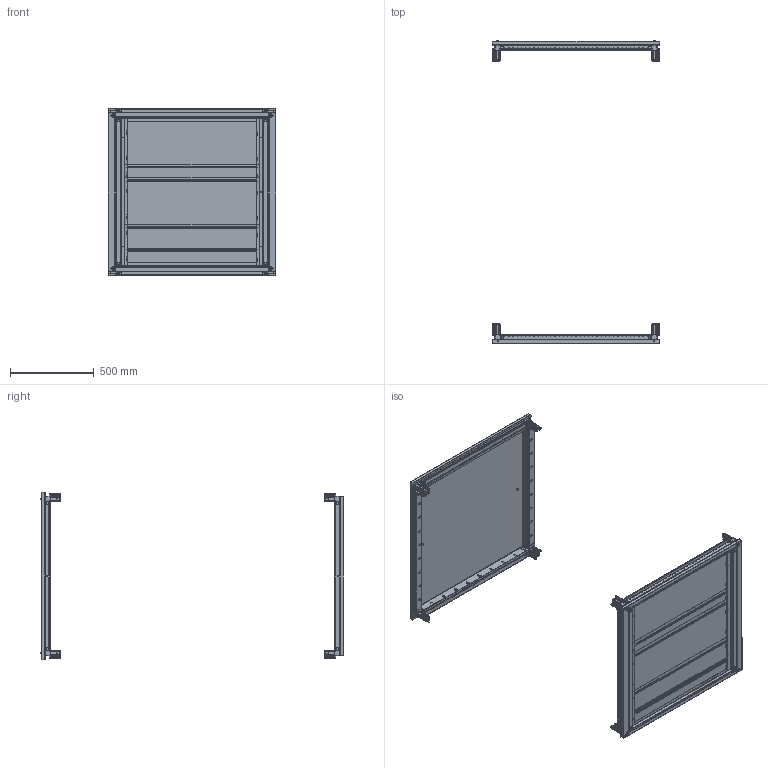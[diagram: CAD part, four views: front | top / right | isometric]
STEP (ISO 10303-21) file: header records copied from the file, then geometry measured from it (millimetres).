
FILE_DESCRIPTION(('CAx-IF Rec.Pracs.---Model Styling and Organization---1.2---2011-12-15','CAx-IF Rec.Pracs.---Geometric and Assembly Validation Properties---4.1---2014-06-16','CAx-IF Rec.Pracs.---PMI Polyline Presentation---2.0---2013-05-24'),'2;1');
FILE_NAME('R5GTB1010 (1800).stp','2021-05-06T06:22:40+03:00',(''),(''),'STEP Interface 4.4 by CT CoreTechnologie','3D_Evolution4.4 by CT CoreTechnologie','');
FILE_SCHEMA(('AUTOMOTIVE_DESIGN { 1 0 10303 214 1 1 1 1 }'));
Length unit declared in the file: millimetre
Products named in the file (23): R5KTB1010; CBA1010; A0200018; Ac00c561; QB04C035; QB04C032; QB04T032; QB04C016; GUARNIZIONE  TETTI_1000x1000; QB04C042; QB04C033; QB01T064; AC00C469D-OLD; QB01C033; AC00C469S-OLD; QB01C041; AC00C244; CTE1010; A0300026; QB03T096; QB03C096_Piegato; AC00C061_AC00C061; A0500003
Assembly tree (57 placements, depth 4):
  R5KTB1010
    CBA1010
      A0200018  x5
      Ac00c561  x14
      QB04C035  x2
      QB04C032  x2
      QB04T032
        QB04C016  x2
        GUARNIZIONE  TETTI_1000x1000
        QB04C042  x2
      QB04C033
      QB01T064
        AC00C469D-OLD  x2
        QB01C033  x2
        AC00C469S-OLD  x2
        QB01C041  x2
      AC00C244  x2
    CTE1010
      A0300026  x4
      QB03T096
        QB03C096_Piegato
        AC00C061_AC00C061  x2
        GUARNIZIONE  TETTI_1000x1000
      QB01T064
        AC00C469D-OLD  x2
        QB01C033  x2
        AC00C469S-OLD  x2
        QB01C041  x2
      A0500003  x4
Bounding box: 1000.5 x 1806.6 x 999 mm (x, y, z)
Surface area: 7127564.4 mm2 (no closed solid volume)
Topology: 0 solids, 95 shells, 9001 faces, 23195 edges, 15072 vertices
Faces by surface type: plane 5198, cylinder 2906, bspline 897
Entity records: 83857 total; most frequent: CARTESIAN_POINT 18847, ORIENTED_EDGE 13164, DIRECTION 12987, EDGE_CURVE 6582, VECTOR 4645, LINE 4645, VERTEX_POINT 4321, AXIS2_PLACEMENT_3D 4171
